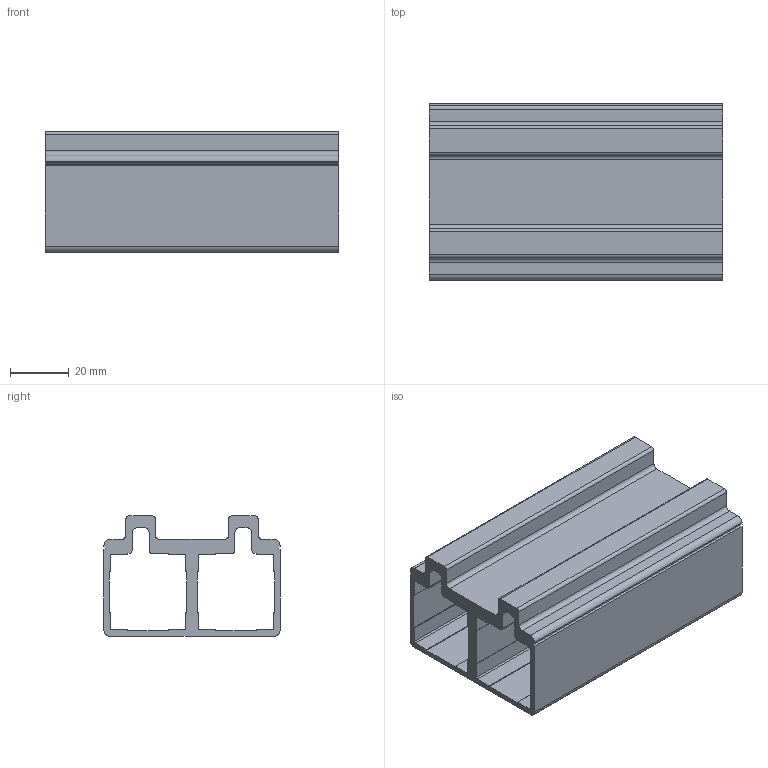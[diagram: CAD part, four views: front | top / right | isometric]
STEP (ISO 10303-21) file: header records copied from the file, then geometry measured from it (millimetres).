
FILE_DESCRIPTION (( 'STEP AP203' ), '1' );
FILE_NAME ('B30050A.STEP', '2017-03-22T12:31:20', ( 'Localadmin' ), ( 'Microsoft' ), 'SwSTEP 2.0', 'SolidWorks 2016', '' );
FILE_SCHEMA (( 'CONFIG_CONTROL_DESIGN' ));
Length unit declared in the file: millimetre
Products named in the file (1): B30050A
Bounding box: 100 x 60.01 x 41 mm (x, y, z)
Volume: 67367.2 mm3; surface area: 46411.3 mm2
Topology: 1 solids, 1 shells, 97 faces, 285 edges, 190 vertices
Faces by surface type: plane 68, cylinder 29
Entity records: 3302 total; most frequent: CARTESIAN_POINT 573, ORIENTED_EDGE 570, DIRECTION 539, EDGE_CURVE 285, LINE 227, VECTOR 227, VERTEX_POINT 190, AXIS2_PLACEMENT_3D 156
